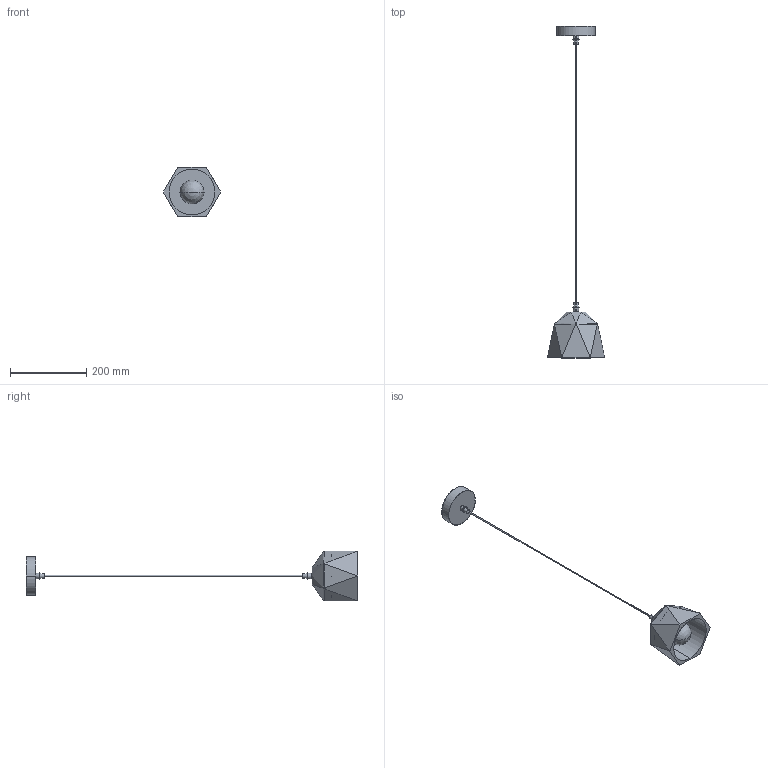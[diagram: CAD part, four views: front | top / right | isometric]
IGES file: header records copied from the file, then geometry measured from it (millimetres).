
Start section: SolidWorks IGES file using analytic representation for surfaces
Global section: file name: F:\燠隴矨\3D\2024-1堎\Georgia Cement Pendant Light-D15XH12CM.IGS; native system: SolidWorks 2022; preprocessor: SolidWorks 2022; author: MyPC; date: 240120.143344; units: millimetre
Bounding box: 150 x 870.17 x 129.9 mm (x, y, z)
Surface area: 168693 mm2 (no closed solid volume)
Topology: 0 solids, 0 shells, 108 faces, 1674 edges, 1673 vertices
Faces by surface type: revolution 59, bspline 49
